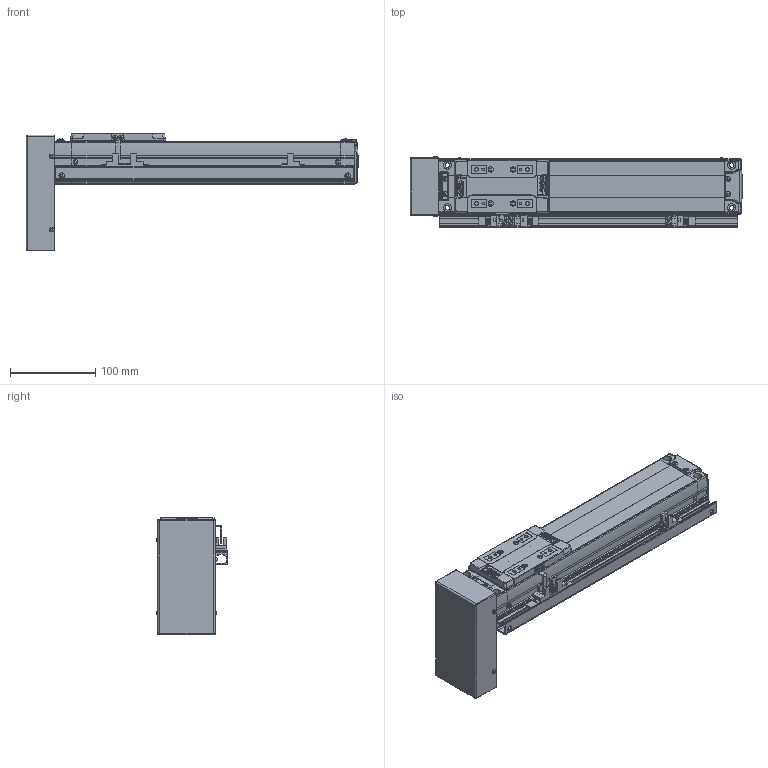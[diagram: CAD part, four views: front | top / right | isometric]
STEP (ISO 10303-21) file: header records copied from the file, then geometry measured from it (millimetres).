
FILE_DESCRIPTION(('STEP AP214'),'1');
FILE_NAME('Z:/Web/3D/SAN65/STP/SAN65ㅁㅁ-200PB+3SR.stp','2012-06-14T04:18:48',(' '),(' '),'Spatial InterOp 3D',' ',' ');
FILE_SCHEMA(('automotive_design'));
Length unit declared in the file: metre
Products named in the file (57): SAN65__-200; BODY-SAN65; REAR-SAN65; RRCV-SAN65; 스크루 : Round - M3.0 x 6.0; FRONT-SAN65; SHAFT-SAN65; RN8 x 0.75; SSFX-SAN65; SLIDE-SAN65; SLCV-SAN65; 스크루 : Countersunk - M3.0 x 6.0; ____200; PB; BTCV-SAN65; M3.0 x 6.0; 3SR; SRL-16x17-450L; - OT; EE-SX674; SBK-SX674-352; HOME; + OT; DOG; SDG-SAN65; 스크루 : Round - M3.0 x 5.0
Assembly tree (56 placements, depth 4):
  ____200
    SAN65__-200
      BODY-SAN65
      REAR-SAN65
        REAR-SAN65
        RRCV-SAN65
        스크루 : Round - M3.0 x 6.0
        스크루 : Round - M3.0 x 6.0
        스크루 : Round - M3.0 x 6.0
        스크루 : Round - M3.0 x 6.0
        스크루 : Round - M3.0 x 6.0
        스크루 : Round - M3.0 x 6.0
      FRONT-SAN65
        FRONT-SAN65
        SHAFT-SAN65
        RN8 x 0.75
        SSFX-SAN65
        스크루 : Round - M3.0 x 6.0
        스크루 : Round - M3.0 x 6.0
        스크루 : Round - M3.0 x 6.0
        스크루 : Round - M3.0 x 6.0
      SLIDE-SAN65
        SLIDE-SAN65
        SLCV-SAN65
        스크루 : Countersunk - M3.0 x 6.0
        스크루 : Countersunk - M3.0 x 6.0
        스크루 : Countersunk - M3.0 x 6.0
        스크루 : Countersunk - M3.0 x 6.0
    PB
      BTCV-SAN65
      M3.0 x 6.0
      M3.0 x 6.0
      M3.0 x 6.0
      M3.0 x 6.0
    3SR
      SRL-16x17-450L
      스크루 : Round - M3.0 x 6.0
      스크루 : Round - M3.0 x 6.0
      - OT
        EE-SX674
        SBK-SX674-352
        스크루 : Round - M3.0 x 6.0
        스크루 : Round - M3.0 x 6.0
      HOME
        EE-SX674
        SBK-SX674-352
        스크루 : Round - M3.0 x 6.0
        스크루 : Round - M3.0 x 6.0
      + OT
        EE-SX674
        SBK-SX674-352
        스크루 : Round - M3.0 x 6.0
        스크루 : Round - M3.0 x 6.0
      DOG
        SDG-SAN65
        스크루 : Round - M3.0 x 5.0
        스크루 : Round - M3.0 x 5.0
Bounding box: 390.15 x 84.06 x 138.5 mm (x, y, z)
Volume: 1490264.9 mm3; surface area: 242274.8 mm2
Topology: 46 solids, 46 shells, 1943 faces, 4968 edges, 3240 vertices
Faces by surface type: plane 1292, cylinder 478, cone 89, sphere 36, bspline 30, torus 15, extrusion 3
Full cylindrical faces by diameter (mm): 0.571 x2, 0.706 x1, 1.727 x2, 2.132 x1, 2.2 x4, 2.5 x15, 2.528 x4, 3 x6, 3.121 x2, 3.3 x4, 3.4 x8, 3.5 x14, 4.2 x20, 4.849 x4, 5 x3, 5.5 x4, 5.987 x2, 6 x6, 6.35 x1, 6.5 x2, 7 x1, 8 x4, 9.5 x4, 13 x1, 15 x1, 19 x1, 26 x1, 38.1 x1
Entity records: 78485 total; most frequent: CARTESIAN_POINT 14941, DIRECTION 9757, ORIENTED_EDGE 9300, EDGE_CURVE 4650, VECTOR 3293, LINE 3290, AXIS2_PLACEMENT_3D 3232, VERTEX_POINT 3176
